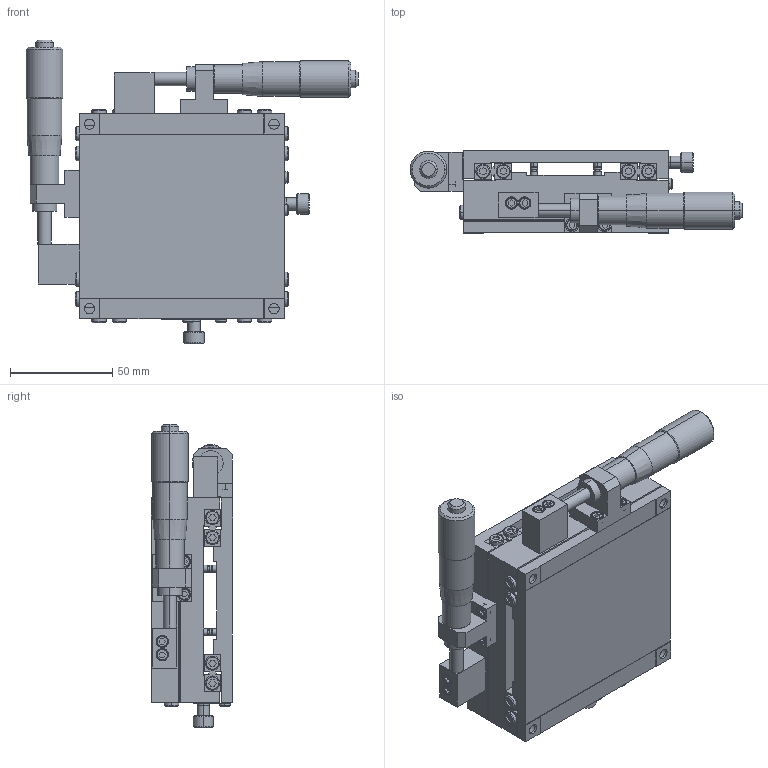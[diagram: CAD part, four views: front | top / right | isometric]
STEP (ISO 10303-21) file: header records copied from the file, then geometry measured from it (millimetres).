
FILE_DESCRIPTION (( 'STEP AP203' ), '1' );
FILE_NAME ('MY100-AS.STEP', '2008-08-02T04:32:09', ( '陳志豪' ), ( '高明鐵企業股份有限公司' ), 'SwSTEP 2.0', 'SolidWorks 2007', '' );
FILE_SCHEMA (( 'CONFIG_CONTROL_DESIGN' ));
Length unit declared in the file: millimetre
Products named in the file (1): MY100-AS
Bounding box: 162 x 40 x 148.2 mm (x, y, z)
Volume: 380701.9 mm3; surface area: 127070.2 mm2
Topology: 15 solids, 15 shells, 1152 faces, 2886 edges, 1882 vertices
Faces by surface type: plane 694, cylinder 268, cone 96, bspline 94
Entity records: 39595 total; most frequent: CARTESIAN_POINT 11951, ORIENTED_EDGE 5756, DIRECTION 5448, EDGE_CURVE 2878, VECTOR 2034, LINE 2034, VERTEX_POINT 1882, AXIS2_PLACEMENT_3D 1707
